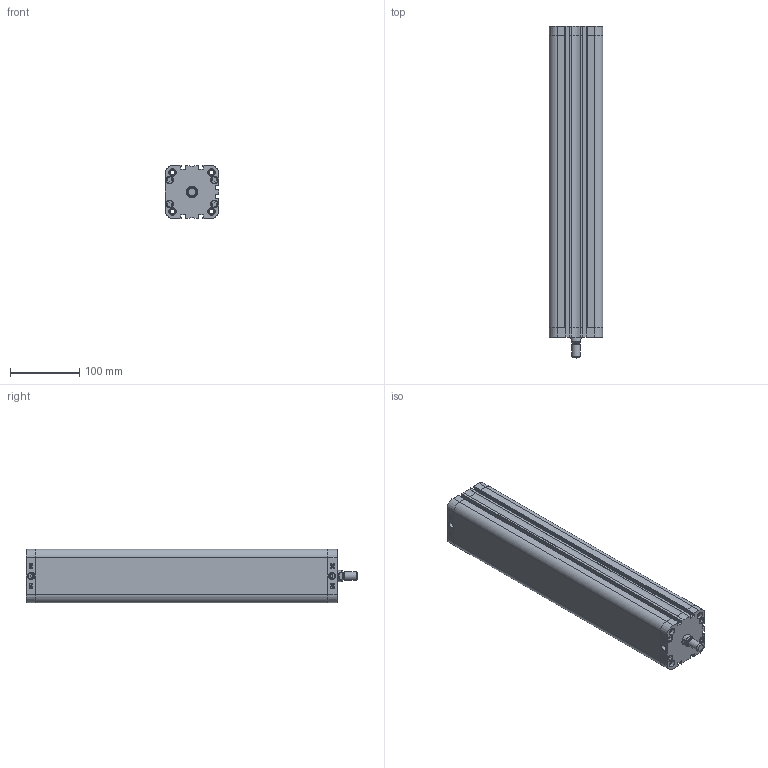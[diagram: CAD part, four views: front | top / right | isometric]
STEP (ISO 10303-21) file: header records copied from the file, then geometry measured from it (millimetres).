
FILE_DESCRIPTION((''),'2;1');
FILE_NAME('T:\Archivio Inventor\- CATALOGHI 2012\SERIE P - NUOVA\PDM\PDM063\PDM063.---.GS.M\PDM063.400.GS.M.stp','2013-02-04T09:33:54',('Administrator'),(''),'Autodesk Inventor 2012','Autodesk Inventor 2012','');
FILE_SCHEMA(('CONFIG_CONTROL_DESIGN'));
Length unit declared in the file: millimetre
Products named in the file (1): PDM063.400.GS.M
Bounding box: 77 x 479 x 77 mm (x, y, z)
Volume: 916740.7 mm3; surface area: 364387.7 mm2
Topology: 1 solids, 5 shells, 824 faces, 1993 edges, 1252 vertices
Faces by surface type: plane 346, bspline 218, cylinder 142, torus 55, cone 45, sphere 18
Full cylindrical faces by diameter (mm): 4 x2, 6.3 x4, 6.647 x8, 8.047 x4, 8.566 x2, 9.8 x8, 10 x1, 10.3 x8, 10.5 x8, 12 x2, 16 x1, 16.5 x1, 63 x1, 65.4 x1, 65.6 x1
Entity records: 27370 total; most frequent: CARTESIAN_POINT 9124, ORIENTED_EDGE 3744, DIRECTION 3031, EDGE_CURVE 1872, VERTEX_POINT 1231, AXIS2_PLACEMENT_3D 1026, EDGE_LOOP 1003, VECTOR 979
